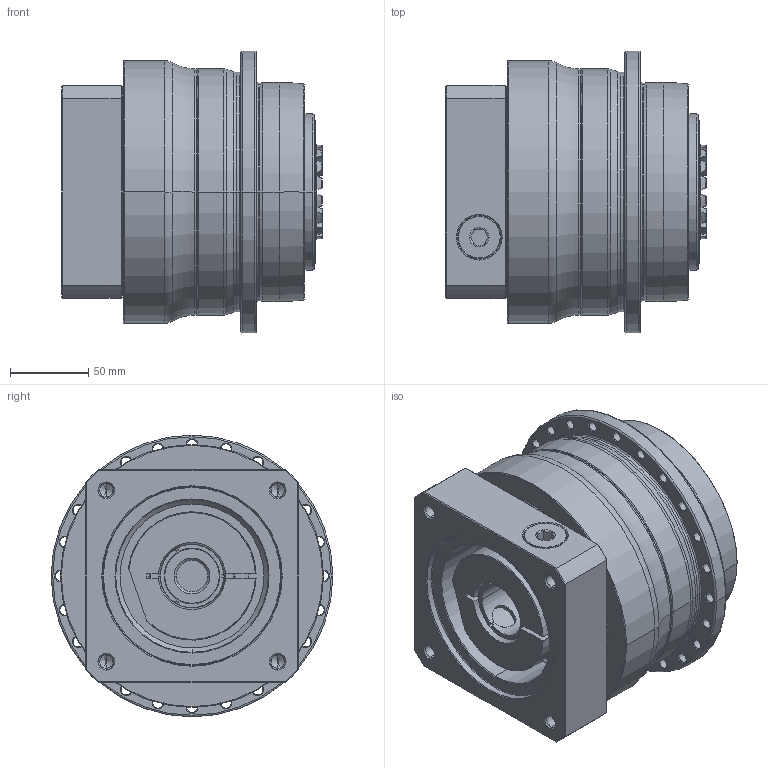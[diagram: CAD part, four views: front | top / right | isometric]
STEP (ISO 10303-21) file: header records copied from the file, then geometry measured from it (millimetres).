
FILE_DESCRIPTION((''),'2;1');
FILE_NAME('APC140_1ST_35-P0409800201_ASM','2018-06-27T',('d01226'),(''),'PRO/ENGINEER BY PARAMETRIC TECHNOLOGY CORPORATION, 2008410','PRO/ENGINEER BY PARAMETRIC TECHNOLOGY CORPORATION, 2008410','');
FILE_SCHEMA(('CONFIG_CONTROL_DESIGN'));
Length unit declared in the file: millimetre
Products named in the file (9): P0278501003; P03595D0103; P1318510301; P0503800012; P0912503001; P1211500001; P0409800201; 21711422019; APC140_1ST_35-P0409800201_ASM
Assembly tree (8 placements, depth 2):
  APC140_1ST_35-P0409800201_ASM
    P0278501003
    P03595D0103
    P1318510301
    P0503800012
    P0912503001
    P1211500001
    P0409800201
    21711422019
Bounding box: 166.6 x 180 x 180 mm (x, y, z)
Volume: 2665578.5 mm3; surface area: 335594.3 mm2
Topology: 9 solids, 19 shells, 675 faces, 1621 edges, 987 vertices
Faces by surface type: cone 228, cylinder 210, plane 123, torus 100, bspline 14
Entity records: 24929 total; most frequent: CARTESIAN_POINT 8795, DIRECTION 3609, ORIENTED_EDGE 3164, EDGE_CURVE 1603, AXIS2_PLACEMENT_3D 1565, VERTEX_POINT 987, CIRCLE 877, EDGE_LOOP 780
